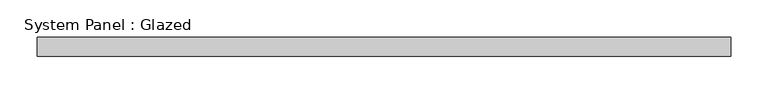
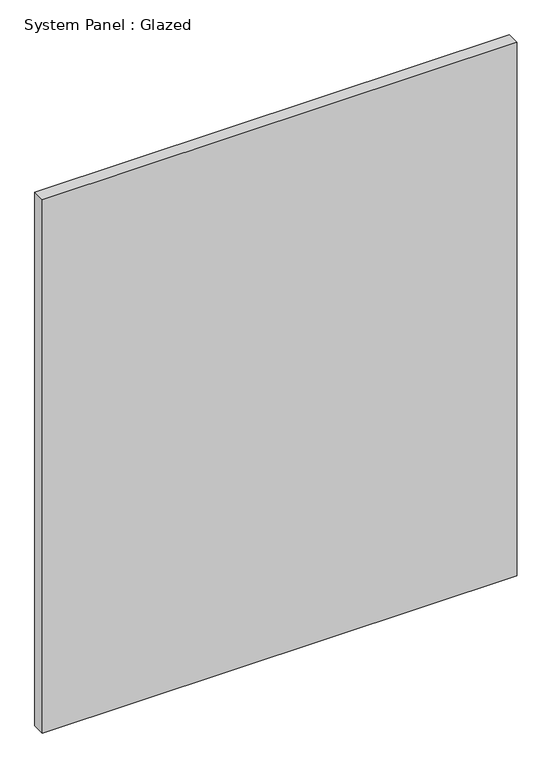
"""IFC4 building model written with IfcOpenShell, lengths in millimetres: plate geometry, System Panel : Glazed."""

import ifcopenshell
import ifcopenshell.guid

model = None  # the IFC model being written
_history = None  # IfcOwnerHistory: only IFC2X3 demands one
_inside = {}  # id of a spatial element -> (the spatial element, [elements in it])
_under = {}  # id of a project, library or spatial element -> (it, [spatial elements below it])
_declared = {}  # id of a project -> (the project, [libraries it declares])
_typed = {}  # id of a type object -> (the type object, [elements of that type])
_made_of = {}  # id of a material, layer set ... -> (it, [elements and type objects made of it])


def new_model(schema):
    """Start an empty IFC model of exactly this schema.

    Asked for "IFC4X3", IfcOpenShell would pick the latest addendum, in which some entities
    have other attributes; the version numbers below select the first issue.
    IFC2X3 requires an IfcOwnerHistory on every rooted entity: one is made here for all.
    """
    global model, _history
    if schema == "IFC4X3":
        model = ifcopenshell.file(schema_version=(4, 3, 0, 0))
    else:
        model = ifcopenshell.file(schema=schema)
    _inside.clear()
    _under.clear()
    _declared.clear()
    _typed.clear()
    _made_of.clear()
    _history = None
    if model.schema == "IFC2X3":
        org = make("IfcOrganization", Name="unknown")
        user = make(
            "IfcPersonAndOrganization",
            ThePerson=make("IfcPerson", FamilyName="unknown"),
            TheOrganization=org,
        )
        app = make(
            "IfcApplication",
            ApplicationDeveloper=org,
            Version="unknown",
            ApplicationFullName="unknown",
            ApplicationIdentifier="unknown",
        )
        _history = make(
            "IfcOwnerHistory",
            OwningUser=user,
            OwningApplication=app,
            ChangeAction="ADDED",
            CreationDate=0,
        )
    return model


def make(cls, **values):
    """One entity of the class cls with the attributes given. An attribute that is None is left unset."""
    return model.create_entity(
        cls, **{name: value for name, value in values.items() if value is not None}
    )


def rooted(cls, **values):
    """An entity with a GlobalId (a new one), such as an element, a storey or a relation."""
    return make(cls, GlobalId=ifcopenshell.guid.new(), OwnerHistory=_history, **values)


def si_unit(unit_type, name, prefix=None):
    """IfcSIUnit, for example si_unit("LENGTHUNIT", "METRE", prefix="MILLI")."""
    return make("IfcSIUnit", UnitType=unit_type, Prefix=prefix, Name=name)


def assignment(units):
    """IfcUnitAssignment: the units of a project."""
    return None if units is None else make("IfcUnitAssignment", Units=units)


def point(xyz):
    """IfcCartesianPoint."""
    return None if xyz is None else make("IfcCartesianPoint", Coordinates=xyz)


def direction(xyz):
    """IfcDirection."""
    return None if xyz is None else make("IfcDirection", DirectionRatios=xyz)


def frame(location, z_axis=None, x_axis=None):
    """IfcAxis2Placement3D, a coordinate frame: its origin and axes. An axis left out is left unset."""
    return make(
        "IfcAxis2Placement3D",
        Location=point(location),
        Axis=direction(z_axis),
        RefDirection=direction(x_axis),
    )


def origin():
    """The frame at (0, 0, 0) with its axes left unset."""
    return frame((0.0, 0.0, 0.0))


def origin_with_axes():
    """The frame at (0, 0, 0) with the z axis (0, 0, 1) and the x axis (1, 0, 0) written out."""
    return frame((0.0, 0.0, 0.0), z_axis=(0.0, 0.0, 1.0), x_axis=(1.0, 0.0, 0.0))


def place(relative_to, where):
    """IfcLocalPlacement: puts the frame where relative to a parent placement (None: the world)."""
    return make(
        "IfcLocalPlacement", PlacementRelTo=relative_to, RelativePlacement=where
    )


def context(
    kind, dimensions, precision=None, world=None, true_north=None, identifier=None
):
    """IfcGeometricRepresentationContext, for example the 3D "Model" context."""
    return make(
        "IfcGeometricRepresentationContext",
        ContextIdentifier=identifier,
        ContextType=kind,
        CoordinateSpaceDimension=dimensions,
        Precision=precision,
        WorldCoordinateSystem=world,
        TrueNorth=true_north,
    )


def project(units=None, contexts=None):
    """IfcProject with its units and contexts."""
    return rooted(
        "IfcProject",
        Name="project",
        RepresentationContexts=contexts,
        UnitsInContext=assignment(units),
    )


def spatial(cls, under=None, at=None, **own):
    """A site, building, storey or space (cls), placed at a placement, below another one or the project."""
    s = rooted(cls, ObjectPlacement=at, **own)
    if under is not None:
        _under.setdefault(under.id(), (under, []))[1].append(s)
    return s


def polyline(points):
    """IfcPolyline through the points."""
    return make("IfcPolyline", Points=[point(p) for p in points])


def outline(outer, holes=None, kind="AREA"):
    """IfcArbitraryClosedProfileDef: a profile drawn as a closed curve; with holes, ...WithVoids."""
    if holes is None:
        return make("IfcArbitraryClosedProfileDef", ProfileType=kind, OuterCurve=outer)
    return make(
        "IfcArbitraryProfileDefWithVoids",
        ProfileType=kind,
        OuterCurve=outer,
        InnerCurves=holes,
    )


def extrude(swept, where, along, depth):
    """IfcExtrudedAreaSolid: the profile swept, set in the frame where, extruded along a direction by depth."""
    return make(
        "IfcExtrudedAreaSolid",
        SweptArea=swept,
        Position=where,
        ExtrudedDirection=direction(along),
        Depth=depth,
    )


def shape(context_of_items, identifier, shape_type, items):
    """IfcShapeRepresentation: the items that make up one representation, for example the "Body"."""
    return make(
        "IfcShapeRepresentation",
        ContextOfItems=context_of_items,
        RepresentationIdentifier=identifier,
        RepresentationType=shape_type,
        Items=items,
    )


def source(mapping_origin, context_of_items, identifier, shape_type, items):
    """IfcRepresentationMap: a shape defined once, which mapped items show again and again."""
    return make(
        "IfcRepresentationMap",
        MappingOrigin=mapping_origin,
        MappedRepresentation=shape(context_of_items, identifier, shape_type, items),
    )


def transform(
    local_origin,
    x_axis=None,
    y_axis=None,
    z_axis=None,
    scale=None,
    scale2=None,
    scale3=None,
    uniform=True,
):
    """IfcCartesianTransformationOperator3D, or its non-uniform kind. x_axis, y_axis, z_axis: its Axis1, 2, 3."""
    if uniform:
        return make(
            "IfcCartesianTransformationOperator3D",
            Axis1=direction(x_axis),
            Axis2=direction(y_axis),
            LocalOrigin=point(local_origin),
            Scale=scale,
            Axis3=direction(z_axis),
        )
    return make(
        "IfcCartesianTransformationOperator3DnonUniform",
        Axis1=direction(x_axis),
        Axis2=direction(y_axis),
        LocalOrigin=point(local_origin),
        Scale=scale,
        Axis3=direction(z_axis),
        Scale2=scale2,
        Scale3=scale3,
    )


def mapped(mapping_source, mapping_target):
    """IfcMappedItem: shows the shape of a source again, moved by a transform."""
    return make(
        "IfcMappedItem", MappingSource=mapping_source, MappingTarget=mapping_target
    )


def made_of(thing, what):
    """Note that an element or type object is made of a material, layer set ...; save() writes the relation."""
    if what is not None:
        _made_of.setdefault(what.id(), (what, []))[1].append(thing)
    return thing


def element(
    cls,
    number,
    at=None,
    inside=None,
    cuts=None,
    type_object=None,
    material=None,
    context=None,
    identifier="Body",
    shape_type=None,
    held_by="IfcProductDefinitionShape",
    body=None,
    shapes=None,
    **own,
):
    """One element of the class cls, such as IfcWall. Its Tag is "e" and its number.

    at: its placement. inside: the storey or other place that contains it. cuts: it is an
    opening in that element (IfcRelVoidsElement). A single representation is given by context,
    identifier, shape_type and body (its items); several are given by shapes. held_by: the class
    of the entity that holds the representations. save() writes the other relations.
    """
    e = rooted(cls, Tag="e%d" % number, ObjectPlacement=at, **own)
    if body is not None:
        shapes = [shape(context, identifier, shape_type, body)]
    if shapes is not None:
        e.Representation = make(held_by, Representations=shapes)
    if inside is not None:
        _inside.setdefault(inside.id(), (inside, []))[1].append(e)
    if cuts is not None:
        rooted(
            "IfcRelVoidsElement", RelatingBuildingElement=cuts, RelatedOpeningElement=e
        )
    if type_object is not None:
        _typed.setdefault(type_object.id(), (type_object, []))[1].append(e)
    return made_of(e, material)


def aggregate(whole, parts):
    """IfcRelAggregates: a whole, such as a stair, and the parts it consists of."""
    return rooted("IfcRelAggregates", RelatingObject=whole, RelatedObjects=parts)


def save(model, path):
    """Write the relations noted so far, then the file.

    IfcRelAggregates (storeys below a building ...), IfcRelContainedInSpatialStructure (elements
    in a storey), IfcRelDefinesByType, IfcRelAssociatesMaterial and IfcRelDeclares: one each for
    every whole, place, type object, material and project.
    """
    for whole, parts in _under.values():
        aggregate(whole, parts)
    for where, things in _inside.values():
        rooted(
            "IfcRelContainedInSpatialStructure",
            RelatedElements=things,
            RelatingStructure=where,
        )
    for kind, things in _typed.values():
        rooted("IfcRelDefinesByType", RelatedObjects=things, RelatingType=kind)
    for what, things in _made_of.values():
        rooted("IfcRelAssociatesMaterial", RelatedObjects=things, RelatingMaterial=what)
    for by, libraries in _declared.values():
        rooted("IfcRelDeclares", RelatingContext=by, RelatedDefinitions=libraries)
    model.write(path)


def system_panel_glazed_9f27e4b4(model_context):
    return source(origin(), model_context, "Body", "SweptSolid", [
        extrude(outline(polyline([(462.5, 24.5), (-462.5, 24.5), (-462.5, 49.5), (462.5, 49.5), (462.5, 24.5)])), origin_with_axes(), (0.0, 0.0, 1.0), 1098.2453384),
    ])


if __name__ == "__main__":
    model = new_model("IFC4")
    model_context = context("Model", 3, world=origin())
    ifc_project = project(units=[si_unit("LENGTHUNIT", "METRE", prefix="MILLI")], contexts=[model_context])
    site = spatial("IfcSite", under=ifc_project)
    building = spatial("IfcBuilding", under=site)
    placement = place(None, origin())
    system_panel_glazed_shape = system_panel_glazed_9f27e4b4(model_context)
    element("IfcPlate", 1, ObjectType="System Panel : Glazed", at=placement, inside=building, context=model_context, shape_type="MappedRepresentation", body=[
        mapped(system_panel_glazed_shape, transform((0.0, 0.0, 0.0), x_axis=(1.0, 0.0, 0.0), y_axis=(0.0, 1.0, 0.0), z_axis=(0.0, 0.0, 1.0))),
    ])
    save(model, "model.ifc")
